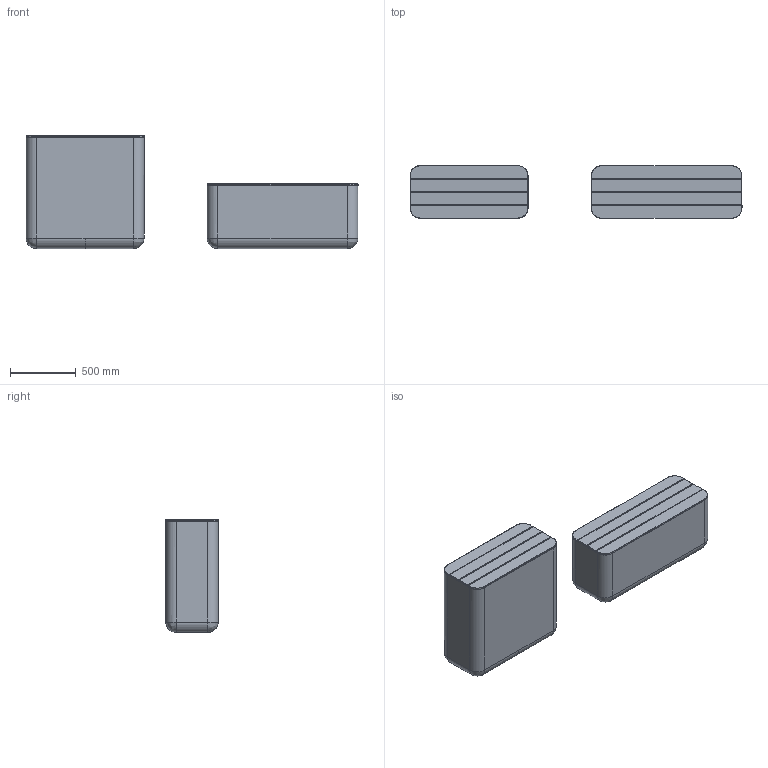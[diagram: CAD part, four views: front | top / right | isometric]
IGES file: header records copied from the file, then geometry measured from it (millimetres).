
Global section: file name: C:\Users\Loick\Desktop\EXPORT GHITA\PLANTERS_Terra collection_Design Alain Gilles.igs; native system: Rhinoceros ( Nov 21 2023 ); preprocessor: Trout Lake IGES 012 Nov 21 2023; date: 231222.154711; units: millimetre
Bounding box: 2531.21 x 400 x 862 mm (x, y, z)
Surface area: 9289205.2 mm2 (no closed solid volume)
Topology: 0 solids, 0 shells, 179 faces, 2583 edges, 2573 vertices
Faces by surface type: bspline 179
